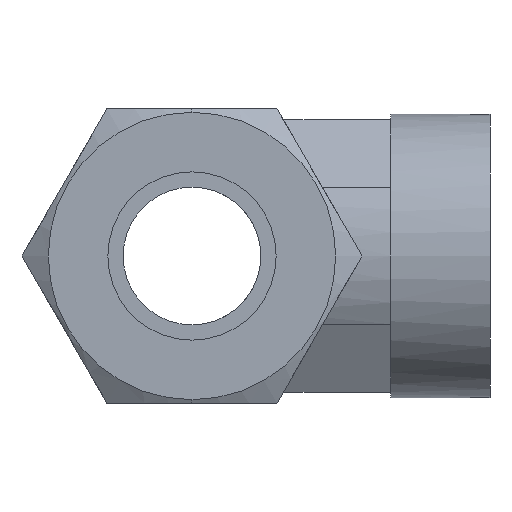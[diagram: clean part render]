
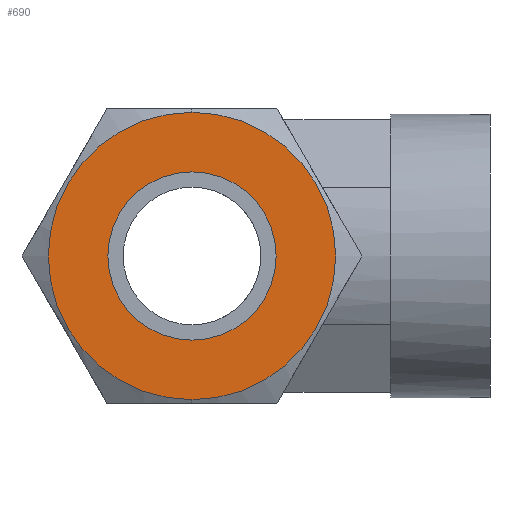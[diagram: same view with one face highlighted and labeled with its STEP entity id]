
A CAD part, left-side view. The second image highlights one B-rep face of the part: STEP entity #690.
In plain terms, the highlighted planar face has unit normal (-1, 0, 0).
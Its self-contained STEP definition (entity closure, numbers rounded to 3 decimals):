
#225 = EDGE_CURVE ( 'NONE', #226, #229, #1478, .T. ) ;
#226 = VERTEX_POINT ( 'NONE', #1473 ) ;
#229 = VERTEX_POINT ( 'NONE', #1468 ) ;
#295 = VERTEX_POINT ( 'NONE', #1611 ) ;
#298 = VERTEX_POINT ( 'NONE', #1609 ) ;
#300 = EDGE_CURVE ( 'NONE', #298, #295, #1608, .T. ) ;
#690 = ADVANCED_FACE ( 'NONE', ( #2351, #2350 ), #2349, .T. ) ;
#691 = EDGE_LOOP ( 'NONE', ( #692, #694 ) ) ;
#692 = ORIENTED_EDGE ( 'NONE', *, *, #693, .F. ) ;
#693 = EDGE_CURVE ( 'NONE', #295, #298, #2347, .T. ) ;
#694 = ORIENTED_EDGE ( 'NONE', *, *, #300, .F. ) ;
#695 = EDGE_LOOP ( 'NONE', ( #696, #697 ) ) ;
#696 = ORIENTED_EDGE ( 'NONE', *, *, #225, .T. ) ;
#697 = ORIENTED_EDGE ( 'NONE', *, *, #698, .T. ) ;
#698 = EDGE_CURVE ( 'NONE', #229, #226, #2403, .T. ) ;
#1468 = CARTESIAN_POINT ( 'NONE',  ( -35.2, 0., 10.85 ) ) ;
#1473 = CARTESIAN_POINT ( 'NONE',  ( -35.2, 0., -10.85 ) ) ;
#1474 = DIRECTION ( 'NONE',  ( 0., 0., -1. ) ) ;
#1475 = DIRECTION ( 'NONE',  ( -1., 0., 0. ) ) ;
#1476 = CARTESIAN_POINT ( 'NONE',  ( -35.2, 0., 0. ) ) ;
#1477 = AXIS2_PLACEMENT_3D ( 'NONE', #1476, #1475, #1474 ) ;
#1478 = CIRCLE ( 'NONE', #1477, 10.85 ) ;
#1608 = CIRCLE ( 'NONE', #1666, 6.35 ) ;
#1609 = CARTESIAN_POINT ( 'NONE',  ( -35.2, 0., 6.35 ) ) ;
#1611 = CARTESIAN_POINT ( 'NONE',  ( -35.2, 0., -6.35 ) ) ;
#1663 = DIRECTION ( 'NONE',  ( 0., 0., -1. ) ) ;
#1664 = DIRECTION ( 'NONE',  ( -1., 0., 0. ) ) ;
#1665 = CARTESIAN_POINT ( 'NONE',  ( -35.2, 0., 0. ) ) ;
#1666 = AXIS2_PLACEMENT_3D ( 'NONE', #1665, #1664, #1663 ) ;
#2344 = DIRECTION ( 'NONE',  ( 0., 0., -1. ) ) ;
#2345 = DIRECTION ( 'NONE',  ( -1., 0., 0. ) ) ;
#2346 = AXIS2_PLACEMENT_3D ( 'NONE', #2348, #2345, #2344 ) ;
#2347 = CIRCLE ( 'NONE', #2407, 6.35 ) ;
#2348 = CARTESIAN_POINT ( 'NONE',  ( -35.2, -12.834, 0. ) ) ;
#2349 = PLANE ( 'NONE',  #2346 ) ;
#2350 = FACE_OUTER_BOUND ( 'NONE', #695, .T. ) ;
#2351 = FACE_BOUND ( 'NONE', #691, .T. ) ;
#2399 = DIRECTION ( 'NONE',  ( 0., 0., -1. ) ) ;
#2400 = DIRECTION ( 'NONE',  ( -1., 0., 0. ) ) ;
#2401 = CARTESIAN_POINT ( 'NONE',  ( -35.2, 0., 0. ) ) ;
#2402 = AXIS2_PLACEMENT_3D ( 'NONE', #2401, #2400, #2399 ) ;
#2403 = CIRCLE ( 'NONE', #2402, 10.85 ) ;
#2404 = DIRECTION ( 'NONE',  ( 0., 0., -1. ) ) ;
#2405 = DIRECTION ( 'NONE',  ( -1., 0., 0. ) ) ;
#2406 = CARTESIAN_POINT ( 'NONE',  ( -35.2, 0., 0. ) ) ;
#2407 = AXIS2_PLACEMENT_3D ( 'NONE', #2406, #2405, #2404 ) ;
